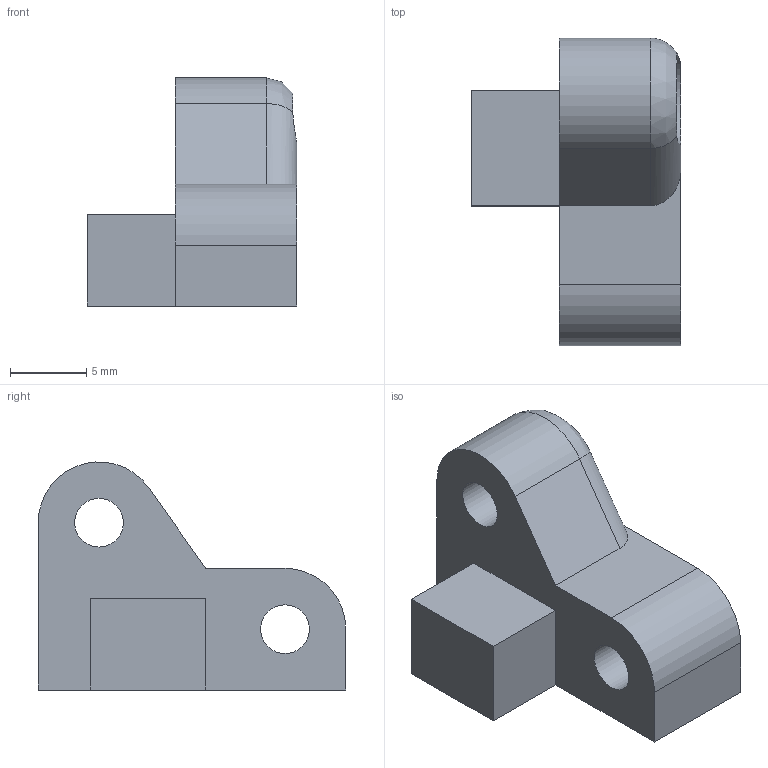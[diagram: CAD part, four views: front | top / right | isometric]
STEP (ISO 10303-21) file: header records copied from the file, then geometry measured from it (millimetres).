
FILE_DESCRIPTION(/* description */ (''),/* implementation_level */ '2;1');
FILE_NAME(/* name */ '4-28-1 Top steering mount left.step',/* time_stamp */ '2025-05-10T22:19:14+02:00',/* author */ (''),/* organization */ (''),/* preprocessor_version */ 'ST-DEVELOPER v20.1',/* originating_system */ 'Autodesk Translation Framework v14.4.0.0',/* authorisation */ '');
FILE_SCHEMA (('AUTOMOTIVE_DESIGN { 1 0 10303 214 3 1 1 }'));
Length unit declared in the file: millimetre
Products named in the file (1): Top steering mount left
Bounding box: 13.8 x 20.23 x 14.99 mm (x, y, z)
Volume: 1668 mm3; surface area: 1295.2 mm2
Topology: 1 solids, 1 shells, 24 faces, 58 edges, 38 vertices
Faces by surface type: plane 14, cylinder 9, bspline 1
Full cylindrical faces by diameter (mm): 3.1 x1, 3.2 x2, 6 x2
Entity records: 770 total; most frequent: CARTESIAN_POINT 148, DIRECTION 122, ORIENTED_EDGE 116, EDGE_CURVE 58, AXIS2_PLACEMENT_3D 43, VERTEX_POINT 38, LINE 36, VECTOR 36
